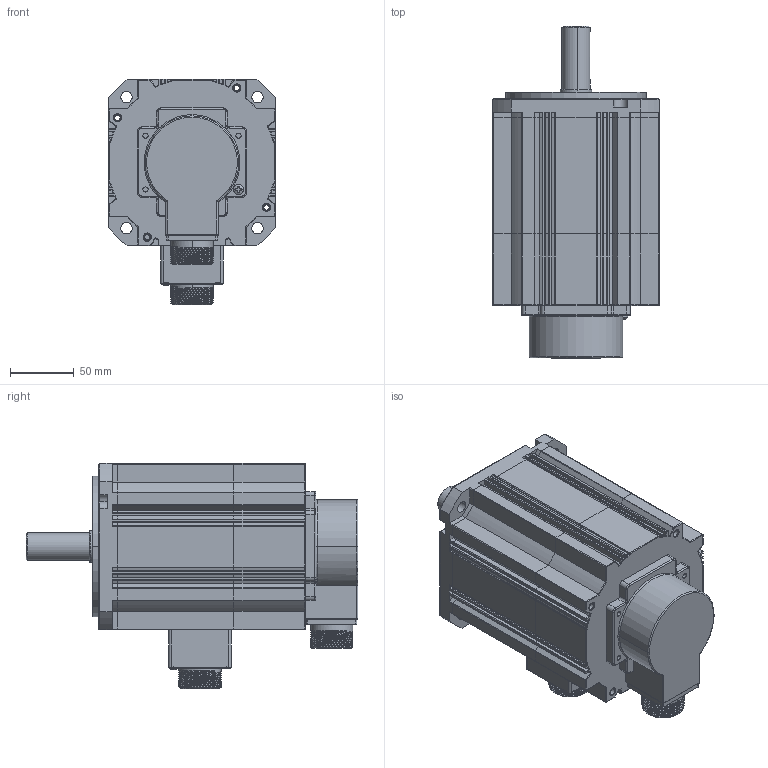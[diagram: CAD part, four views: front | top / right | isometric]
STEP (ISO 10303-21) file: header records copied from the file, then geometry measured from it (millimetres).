
FILE_DESCRIPTION (( 'STEP AP203' ), '1' );
FILE_NAME ('WF130ST-Z1M071620.STEP', '2021-07-26T09:39:01', ( '' ), ( '' ), 'SwSTEP 2.0', 'SolidWorks 2018', '' );
FILE_SCHEMA (( 'CONFIG_CONTROL_DESIGN' ));
Length unit declared in the file: millimetre
Products named in the file (17): ヶ傷裔; 瑤脣裔; WF130ST-Z1M071620; 晤鎢欶裔; deep groove ball bearings gb_Rolling bearings 6204 GB 276-94; 惕掅綴傷裔; 脣釱1; hexagon socket head cap screws gb_GB_FASTENER_SCREWS_HSHCS M5X20-N; 盓傅啣; cross recessed pan head screws gb_GB_CROSS_SCREWS_TYPE1 M3X12-12  H type-N; jike; cross recessed pan head screws gb_GB_CROSS_SCREWS_TYPE1 M4X12-12  H type-N; 瑤脣窒煦; deep groove ball bearings gb_Rolling bearings 6205 GB 276-94; 蛌赽軞傖; 粣; 晤鎢ん
Assembly tree (20 placements, depth 3):
  WF130ST-Z1M071620
    jike
    瑤脣窒煦
      瑤脣裔
      脣釱1
      盓傅啣
    ヶ傷裔
    晤鎢欶裔
    脣釱1
    hexagon socket head cap screws gb_GB_FASTENER_SCREWS_HSHCS M5X20-N
    cross recessed pan head screws gb_GB_CROSS_SCREWS_TYPE1 M4X12-12  H type-N
    cross recessed pan head screws gb_GB_CROSS_SCREWS_TYPE1 M3X12-12  H type-N  x2
    晤鎢ん
    蛌赽軞傖
      粣
      deep groove ball bearings gb_Rolling bearings 6205 GB 276-94  x2
      deep groove ball bearings gb_Rolling bearings 6204 GB 276-94  x2
    惕掅綴傷裔
Bounding box: 130 x 259.5 x 176 mm (x, y, z)
Volume: 1138580 mm3; surface area: 412211.3 mm2
Topology: 18 solids, 18 shells, 2235 faces, 6566 edges, 4157 vertices
Faces by surface type: cylinder 919, plane 585, torus 401, sphere 196, bspline 114, cone 20
Entity records: 69891 total; most frequent: CARTESIAN_POINT 21097, ORIENTED_EDGE 10054, DIRECTION 9892, EDGE_CURVE 5027, AXIS2_PLACEMENT_3D 3951, VERTEX_POINT 3161, CIRCLE 2133, EDGE_LOOP 2064
